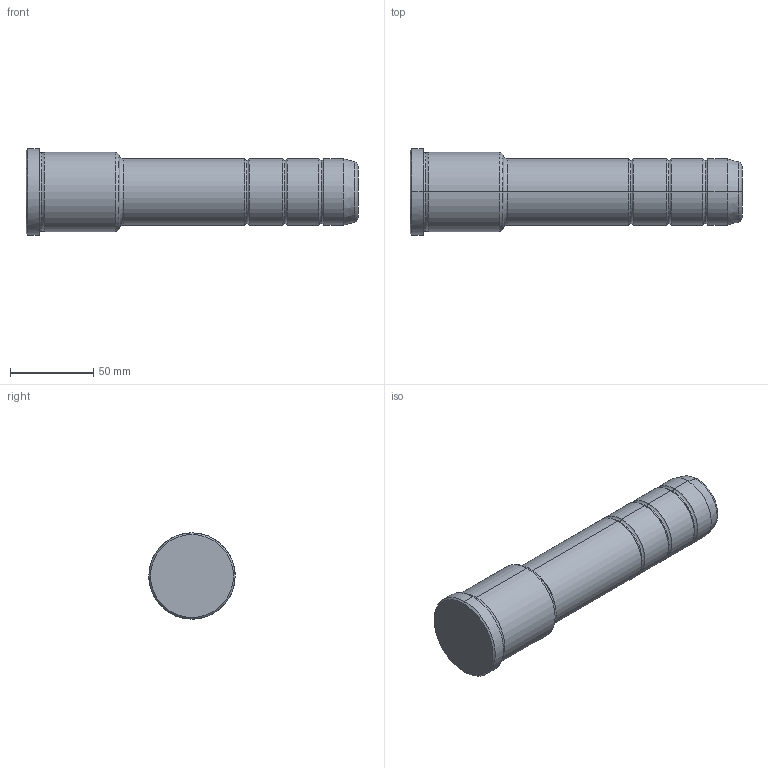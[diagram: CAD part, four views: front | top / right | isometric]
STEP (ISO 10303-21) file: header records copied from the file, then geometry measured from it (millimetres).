
FILE_DESCRIPTION(('CATIA V5 STEP Exchange'),'2;1');
FILE_NAME('C:\Users\Utente\Desktop\IO LAVORO\3D X SITO CF\X SITO\PLASTICA\351\351-40X56X200.stp','2021-10-28T18:30:46+00:00',('none'),('none'),'CATIA Version 5 Release 20 GA (IN-10)','CATIA V5 STEP AP203','none');
FILE_SCHEMA(('CONFIG_CONTROL_DESIGN'));
Length unit declared in the file: millimetre
Products named in the file (1): 351-40X56X200
Bounding box: 200 x 52 x 52 mm (x, y, z)
Volume: 282353.6 mm3; surface area: 30423.7 mm2
Topology: 1 solids, 1 shells, 42 faces, 118 edges, 80 vertices
Faces by surface type: torus 20, cylinder 12, cone 6, plane 4
Entity records: 1472 total; most frequent: CARTESIAN_POINT 353, ORIENTED_EDGE 236, DIRECTION 194, AXIS2_PLACEMENT_3D 135, EDGE_CURVE 118, CIRCLE 92, VERTEX_POINT 80, EDGE_LOOP 44
